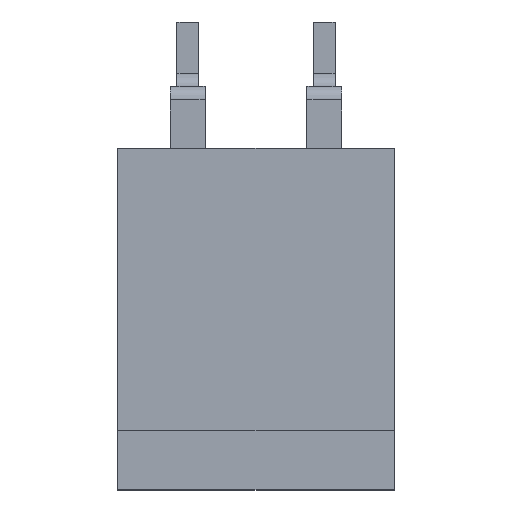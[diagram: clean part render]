
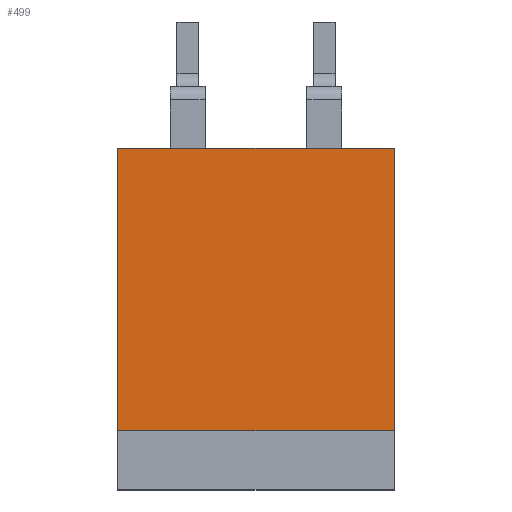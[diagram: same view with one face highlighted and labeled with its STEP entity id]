
A CAD part, top view. The second image highlights one B-rep face of the part: STEP entity #499.
In plain terms, the highlighted planar face has unit normal (0, 0, 1).
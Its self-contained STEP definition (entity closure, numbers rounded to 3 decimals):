
#499=ADVANCED_FACE('',(#909),#911,.T.);
#909=FACE_BOUND('',#910,.T.);
#910=EDGE_LOOP('',(#1228,#1229,#1230,#1231));
#911=PLANE('',#912);
#912=AXIS2_PLACEMENT_3D('',#913,#914,#915);
#913=CARTESIAN_POINT('',(0.,0.,4.5));
#914=DIRECTION('',(0.,0.,1.));
#915=DIRECTION('',(-1.,0.,0.));
#1228=ORIENTED_EDGE('',*,*,#1382,.T.);
#1229=ORIENTED_EDGE('',*,*,#1394,.T.);
#1230=ORIENTED_EDGE('',*,*,#1395,.T.);
#1231=ORIENTED_EDGE('',*,*,#1396,.T.);
#1382=EDGE_CURVE('',#1617,#1615,#1618,.T.);
#1394=EDGE_CURVE('',#1615,#1633,#1635,.T.);
#1395=EDGE_CURVE('',#1633,#1636,#1637,.T.);
#1396=EDGE_CURVE('',#1636,#1617,#1638,.T.);
#1615=VERTEX_POINT('',#2131);
#1617=VERTEX_POINT('',#2135);
#1618=LINE('',#2136,#2137);
#1633=VERTEX_POINT('',#2175);
#1635=LINE('',#2179,#2180);
#1636=VERTEX_POINT('',#2182);
#1637=LINE('',#2183,#2184);
#1638=LINE('',#2186,#2187);
#2131=CARTESIAN_POINT('',(-5.14,6.35,4.5));
#2135=CARTESIAN_POINT('',(5.14,6.35,4.5));
#2136=CARTESIAN_POINT('',(5.14,6.35,4.5));
#2137=VECTOR('',#2138,1.);
#2138=DIRECTION('',(-1.,0.,0.));
#2175=CARTESIAN_POINT('',(-5.14,-4.15,4.5));
#2179=CARTESIAN_POINT('',(-5.14,6.35,4.5));
#2180=VECTOR('',#2181,1.);
#2181=DIRECTION('',(0.,-1.,0.));
#2182=CARTESIAN_POINT('',(5.14,-4.15,4.5));
#2183=CARTESIAN_POINT('',(-5.14,-4.15,4.5));
#2184=VECTOR('',#2185,1.);
#2185=DIRECTION('',(1.,0.,0.));
#2186=CARTESIAN_POINT('',(5.14,-4.15,4.5));
#2187=VECTOR('',#2188,1.);
#2188=DIRECTION('',(0.,1.,0.));
